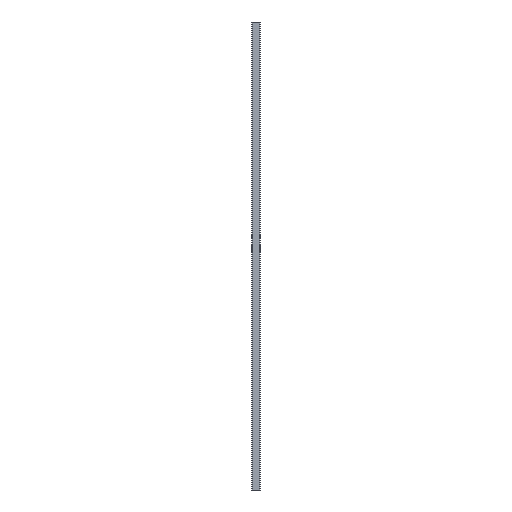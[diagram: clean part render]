
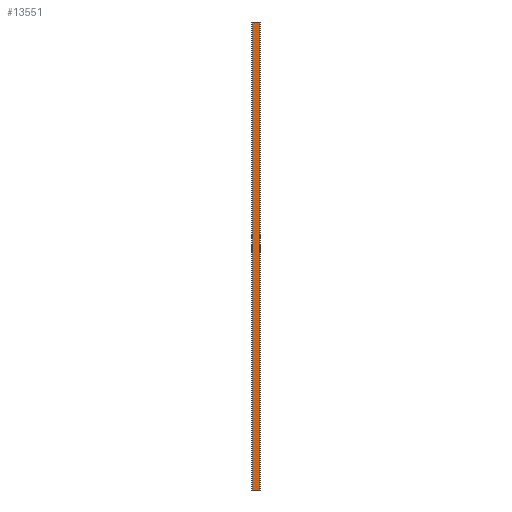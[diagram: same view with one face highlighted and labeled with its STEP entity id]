
A CAD part, left-side view. The second image highlights one B-rep face of the part: STEP entity #13551.
In plain terms, the highlighted planar face has unit normal (-1, 0, 0).
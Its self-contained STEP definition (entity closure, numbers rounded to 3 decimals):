
#125 = CARTESIAN_POINT ( 'NONE',  ( -27., -5., 2000. ) ) ;
#591 = CARTESIAN_POINT ( 'NONE',  ( -27., -68.8, 2000. ) ) ;
#1054 = ORIENTED_EDGE ( 'NONE', *, *, #8342, .T. ) ;
#1285 = CARTESIAN_POINT ( 'NONE',  ( -27., 0., 2000. ) ) ;
#1430 = EDGE_CURVE ( 'NONE', #12571, #2274, #6972, .T. ) ;
#1801 = FACE_OUTER_BOUND ( 'NONE', #2102, .T. ) ;
#1809 = ORIENTED_EDGE ( 'NONE', *, *, #3774, .F. ) ;
#2102 = EDGE_LOOP ( 'NONE', ( #1809, #4671, #7781, #1054 ) ) ;
#2269 = VECTOR ( 'NONE', #12778, 1000. ) ;
#2274 = VERTEX_POINT ( 'NONE', #13222 ) ;
#2349 = CARTESIAN_POINT ( 'NONE',  ( -27., -5., -2000. ) ) ;
#2709 = DIRECTION ( 'NONE',  ( 0., 0., -1. ) ) ;
#3096 = DIRECTION ( 'NONE',  ( 0., 0., -1. ) ) ;
#3774 = EDGE_CURVE ( 'NONE', #2274, #8517, #6586, .T. ) ;
#4451 = CARTESIAN_POINT ( 'NONE',  ( -27., 0., -2000. ) ) ;
#4671 = ORIENTED_EDGE ( 'NONE', *, *, #1430, .F. ) ;
#5102 = PLANE ( 'NONE',  #9019 ) ;
#6333 = VECTOR ( 'NONE', #3096, 1000. ) ;
#6341 = CARTESIAN_POINT ( 'NONE',  ( -27., 0., 2000. ) ) ;
#6586 = LINE ( 'NONE', #4451, #11708 ) ;
#6647 = LINE ( 'NONE', #11618, #6333 ) ;
#6972 = LINE ( 'NONE', #591, #11436 ) ;
#7165 = DIRECTION ( 'NONE',  ( 0., 0., 1. ) ) ;
#7781 = ORIENTED_EDGE ( 'NONE', *, *, #13586, .T. ) ;
#7808 = VERTEX_POINT ( 'NONE', #125 ) ;
#8342 = EDGE_CURVE ( 'NONE', #7808, #8517, #6647, .T. ) ;
#8517 = VERTEX_POINT ( 'NONE', #2349 ) ;
#9019 = AXIS2_PLACEMENT_3D ( 'NONE', #6341, #11498, #7165 ) ;
#11010 = DIRECTION ( 'NONE',  ( 0., 1., 0. ) ) ;
#11436 = VECTOR ( 'NONE', #2709, 1000. ) ;
#11498 = DIRECTION ( 'NONE',  ( -1., 0., 0. ) ) ;
#11549 = CARTESIAN_POINT ( 'NONE',  ( -27., -68.8, 2000. ) ) ;
#11618 = CARTESIAN_POINT ( 'NONE',  ( -27., -5., 2000. ) ) ;
#11708 = VECTOR ( 'NONE', #11010, 1000. ) ;
#12324 = LINE ( 'NONE', #1285, #2269 ) ;
#12571 = VERTEX_POINT ( 'NONE', #11549 ) ;
#12778 = DIRECTION ( 'NONE',  ( 0., 1., 0. ) ) ;
#13222 = CARTESIAN_POINT ( 'NONE',  ( -27., -68.8, -2000. ) ) ;
#13551 = ADVANCED_FACE ( 'NONE', ( #1801 ), #5102, .T. ) ;
#13586 = EDGE_CURVE ( 'NONE', #12571, #7808, #12324, .T. ) ;
